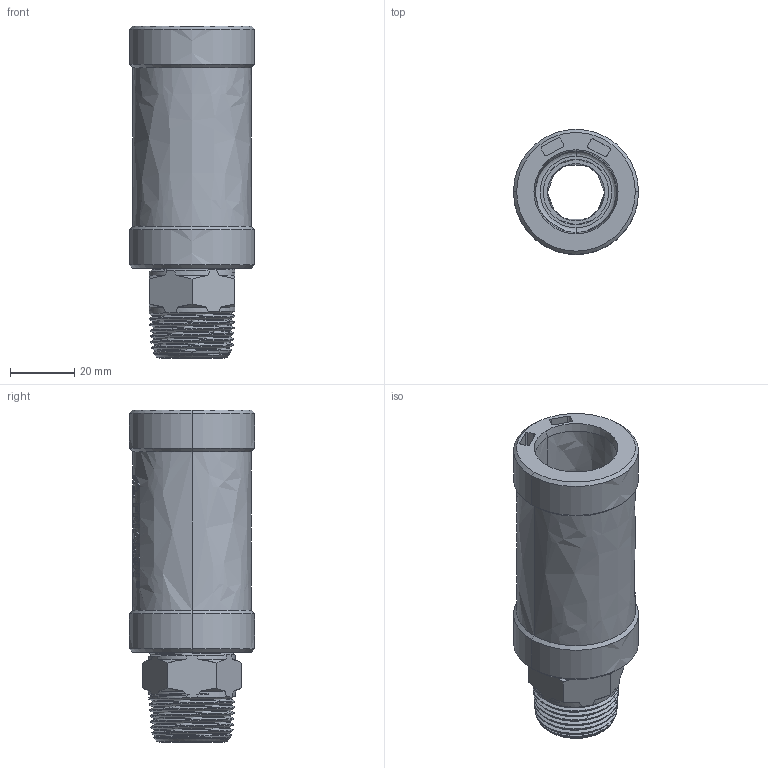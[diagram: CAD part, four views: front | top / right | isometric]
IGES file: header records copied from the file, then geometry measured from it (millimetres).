
Start section:  PTC IGES file: mun_d25_3-4_01.igs
Global section: file name: mun_d25_3-4_01.igs; native system: Pro/ENGINEER by Parametric Technology Corporation; preprocessor: 2011490; author: mtunjic; organization: Unknown; date: 20130823.153138; units: millimetre
Bounding box: 39 x 39 x 103.54 mm (x, y, z)
Surface area: 22037.5 mm2 (no closed solid volume)
Topology: 0 solids, 0 shells, 258 faces, 1356 edges, 1356 vertices
Faces by surface type: bspline 258
